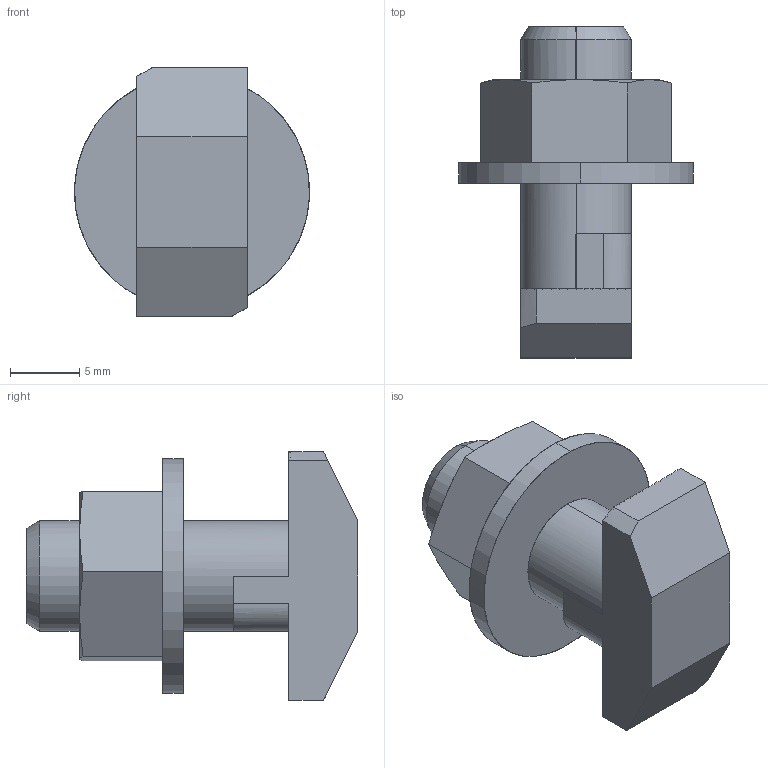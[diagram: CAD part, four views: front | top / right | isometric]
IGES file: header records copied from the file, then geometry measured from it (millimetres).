
Start section: SolidWorks IGES file using analytic representation for surfaces
Global section: file name: D:\LETROMEC CATALOGUE\PROFILE HAMMER HEAD\CP-HH8X20.IGS; native system: SolidWorks 2013; preprocessor: SolidWorks 2013; author: User; date: 180315.202609; units: millimetre
Bounding box: 16.99 x 24 x 18 mm (x, y, z)
Surface area: 1869.4 mm2 (no closed solid volume)
Topology: 0 solids, 0 shells, 110 faces, 914 edges, 914 vertices
Faces by surface type: bspline 88, revolution 22
